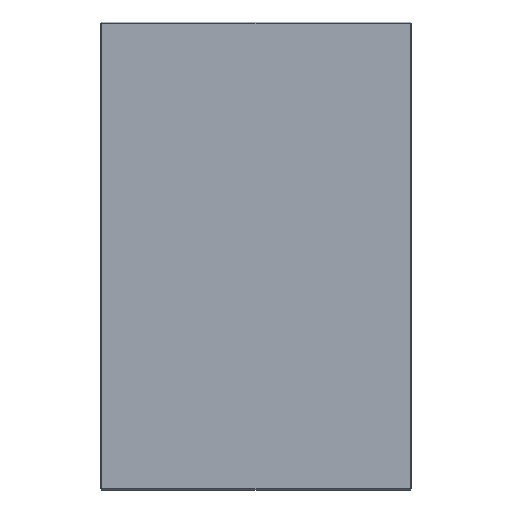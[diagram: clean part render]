
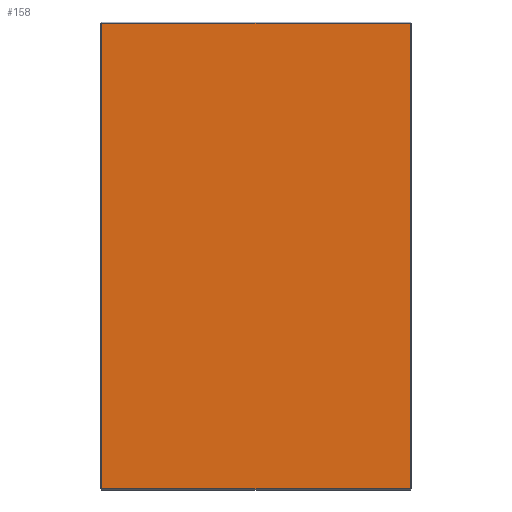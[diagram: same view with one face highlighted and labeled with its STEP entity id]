
A CAD part, front view. The second image highlights one B-rep face of the part: STEP entity #158.
In plain terms, the highlighted planar face has unit normal (0, -1, 0).
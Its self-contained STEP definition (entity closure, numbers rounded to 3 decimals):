
#14 = VERTEX_POINT ( 'NONE', #273 ) ;
#20 = EDGE_CURVE ( 'NONE', #223, #14, #381, .T. ) ;
#42 = VECTOR ( 'NONE', #363, 1000. ) ;
#50 = CARTESIAN_POINT ( 'NONE',  ( -147., 0., 222. ) ) ;
#59 = DIRECTION ( 'NONE',  ( -1., 0., 0. ) ) ;
#60 = VECTOR ( 'NONE', #225, 1000. ) ;
#81 = ORIENTED_EDGE ( 'NONE', *, *, #200, .T. ) ;
#86 = CARTESIAN_POINT ( 'NONE',  ( 147., 0., 222. ) ) ;
#120 = VECTOR ( 'NONE', #59, 1000. ) ;
#130 = ORIENTED_EDGE ( 'NONE', *, *, #425, .T. ) ;
#143 = LINE ( 'NONE', #332, #42 ) ;
#148 = FACE_OUTER_BOUND ( 'NONE', #607, .T. ) ;
#156 = DIRECTION ( 'NONE',  ( 0., 0., 1. ) ) ;
#158 = ADVANCED_FACE ( 'NONE', ( #148 ), #532, .F. ) ;
#159 = AXIS2_PLACEMENT_3D ( 'NONE', #636, #621, #156 ) ;
#171 = CARTESIAN_POINT ( 'NONE',  ( 0., 0., -222. ) ) ;
#200 = EDGE_CURVE ( 'NONE', #478, #223, #284, .T. ) ;
#213 = ORIENTED_EDGE ( 'NONE', *, *, #405, .T. ) ;
#217 = CARTESIAN_POINT ( 'NONE',  ( 0., 0., 222. ) ) ;
#223 = VERTEX_POINT ( 'NONE', #630 ) ;
#225 = DIRECTION ( 'NONE',  ( 1., 0., 0. ) ) ;
#232 = LINE ( 'NONE', #217, #120 ) ;
#273 = CARTESIAN_POINT ( 'NONE',  ( 147., 0., -222. ) ) ;
#284 = LINE ( 'NONE', #287, #387 ) ;
#287 = CARTESIAN_POINT ( 'NONE',  ( -147., 0., 0. ) ) ;
#322 = ORIENTED_EDGE ( 'NONE', *, *, #20, .T. ) ;
#332 = CARTESIAN_POINT ( 'NONE',  ( 147., 0., 0. ) ) ;
#363 = DIRECTION ( 'NONE',  ( 0., 0., 1. ) ) ;
#381 = LINE ( 'NONE', #171, #60 ) ;
#387 = VECTOR ( 'NONE', #626, 1000. ) ;
#405 = EDGE_CURVE ( 'NONE', #579, #478, #232, .T. ) ;
#425 = EDGE_CURVE ( 'NONE', #14, #579, #143, .T. ) ;
#478 = VERTEX_POINT ( 'NONE', #50 ) ;
#532 = PLANE ( 'NONE',  #159 ) ;
#579 = VERTEX_POINT ( 'NONE', #86 ) ;
#607 = EDGE_LOOP ( 'NONE', ( #130, #213, #81, #322 ) ) ;
#621 = DIRECTION ( 'NONE',  ( 0., 1., 0. ) ) ;
#626 = DIRECTION ( 'NONE',  ( 0., 0., -1. ) ) ;
#630 = CARTESIAN_POINT ( 'NONE',  ( -147., 0., -222. ) ) ;
#636 = CARTESIAN_POINT ( 'NONE',  ( 0., 0., 0. ) ) ;
